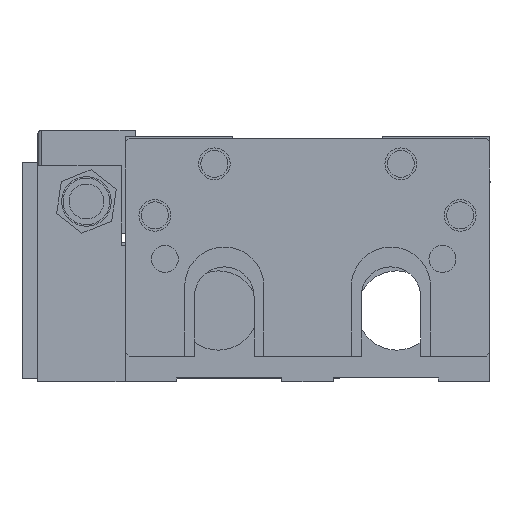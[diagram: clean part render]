
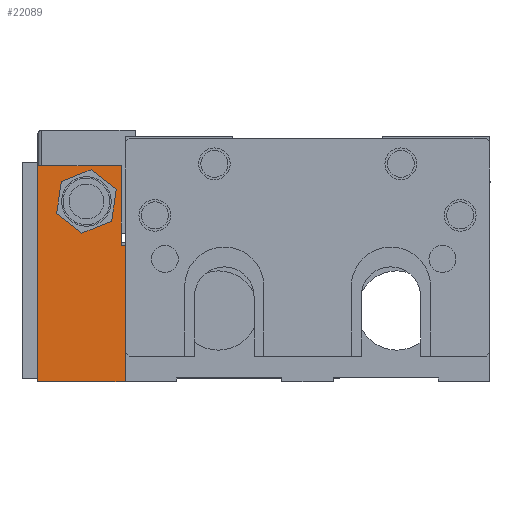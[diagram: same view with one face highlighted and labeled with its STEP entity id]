
A CAD part, left-side view. The second image highlights one B-rep face of the part: STEP entity #22089.
In plain terms, the highlighted planar face has unit normal (-1, 0, 0) as drawn and (0, 0, -1) by its records, which use the part's own axes.
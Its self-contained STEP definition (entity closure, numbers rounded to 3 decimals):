
#172 = DIRECTION ( 'NONE',  ( 1., 0., 0. ) ) ;
#173 = DIRECTION ( 'NONE',  ( 0., 0., 1. ) ) ;
#174 = CARTESIAN_POINT ( 'NONE',  ( 12.25, 45.5, 0. ) ) ;
#175 = AXIS2_PLACEMENT_3D ( 'NONE', #174, #173, #172 ) ;
#176 = CIRCLE ( 'NONE', #175, 6.25 ) ;
#8990 = CARTESIAN_POINT ( 'NONE',  ( 24.5, 0., 0. ) ) ;
#21816 = VERTEX_POINT ( 'NONE', #33091 ) ;
#21884 = VERTEX_POINT ( 'NONE', #33193 ) ;
#21885 = VERTEX_POINT ( 'NONE', #33189 ) ;
#21922 = EDGE_CURVE ( 'NONE', #21923, #21816, #33263, .T. ) ;
#21923 = VERTEX_POINT ( 'NONE', #33270 ) ;
#21927 = VERTEX_POINT ( 'NONE', #33265 ) ;
#21941 = EDGE_CURVE ( 'NONE', #21927, #21960, #33295, .T. ) ;
#21944 = ORIENTED_EDGE ( 'NONE', *, *, #22066, .F. ) ;
#21960 = VERTEX_POINT ( 'NONE', #33311 ) ;
#21965 = EDGE_CURVE ( 'NONE', #21960, #29136, #33315, .T. ) ;
#22054 = EDGE_LOOP ( 'NONE', ( #21944, #22080, #22076, #22077, #22081, #22126 ) ) ;
#22066 = EDGE_CURVE ( 'NONE', #22083, #21927, #33484, .T. ) ;
#22069 = EDGE_CURVE ( 'NONE', #29136, #21923, #33474, .T. ) ;
#22076 = ORIENTED_EDGE ( 'NONE', *, *, #21922, .F. ) ;
#22077 = ORIENTED_EDGE ( 'NONE', *, *, #22069, .F. ) ;
#22080 = ORIENTED_EDGE ( 'NONE', *, *, #22105, .F. ) ;
#22081 = ORIENTED_EDGE ( 'NONE', *, *, #21965, .F. ) ;
#22083 = VERTEX_POINT ( 'NONE', #33562 ) ;
#22085 = EDGE_LOOP ( 'NONE', ( #22131, #22110 ) ) ;
#22089 = ADVANCED_FACE ( 'NONE', ( #33548, #33546 ), #33558, .T. ) ;
#22105 = EDGE_CURVE ( 'NONE', #21816, #22083, #33567, .T. ) ;
#22110 = ORIENTED_EDGE ( 'NONE', *, *, #22355, .T. ) ;
#22123 = EDGE_CURVE ( 'NONE', #21885, #21884, #33618, .T. ) ;
#22126 = ORIENTED_EDGE ( 'NONE', *, *, #21941, .F. ) ;
#22131 = ORIENTED_EDGE ( 'NONE', *, *, #22123, .T. ) ;
#22355 = EDGE_CURVE ( 'NONE', #21884, #21885, #176, .T. ) ;
#29136 = VERTEX_POINT ( 'NONE', #8990 ) ;
#33091 = CARTESIAN_POINT ( 'NONE',  ( 3.5, 54.5, 0. ) ) ;
#33189 = CARTESIAN_POINT ( 'NONE',  ( 18.5, 45.5, 0. ) ) ;
#33193 = CARTESIAN_POINT ( 'NONE',  ( 6., 45.5, 0. ) ) ;
#33259 = DIRECTION ( 'NONE',  ( -1., 0., 0. ) ) ;
#33260 = VECTOR ( 'NONE', #33259, 1000. ) ;
#33262 = CARTESIAN_POINT ( 'NONE',  ( 0., 54.5, 0. ) ) ;
#33263 = LINE ( 'NONE', #33262, #33260 ) ;
#33265 = CARTESIAN_POINT ( 'NONE',  ( 0., 34.5, 0. ) ) ;
#33270 = CARTESIAN_POINT ( 'NONE',  ( 24.5, 54.5, 0. ) ) ;
#33287 = DIRECTION ( 'NONE',  ( 0., -1., 0. ) ) ;
#33288 = VECTOR ( 'NONE', #33287, 1000. ) ;
#33295 = LINE ( 'NONE', #33299, #33288 ) ;
#33299 = CARTESIAN_POINT ( 'NONE',  ( 0., 0., 0. ) ) ;
#33311 = CARTESIAN_POINT ( 'NONE',  ( 0., 0., 0. ) ) ;
#33314 = CARTESIAN_POINT ( 'NONE',  ( 0., 0., 0. ) ) ;
#33315 = LINE ( 'NONE', #33314, #33369 ) ;
#33368 = DIRECTION ( 'NONE',  ( 1., 0., 0. ) ) ;
#33369 = VECTOR ( 'NONE', #33368, 1000. ) ;
#33474 = LINE ( 'NONE', #33515, #33514 ) ;
#33484 = LINE ( 'NONE', #33527, #33526 ) ;
#33513 = DIRECTION ( 'NONE',  ( 0., 1., 0. ) ) ;
#33514 = VECTOR ( 'NONE', #33513, 1000. ) ;
#33515 = CARTESIAN_POINT ( 'NONE',  ( 24.5, 0., 0. ) ) ;
#33525 = DIRECTION ( 'NONE',  ( -1., 0., 0. ) ) ;
#33526 = VECTOR ( 'NONE', #33525, 1000. ) ;
#33527 = CARTESIAN_POINT ( 'NONE',  ( 3.5, 34.5, 0. ) ) ;
#33535 = DIRECTION ( 'NONE',  ( -1., 0., 0. ) ) ;
#33536 = DIRECTION ( 'NONE',  ( 0., 0., -1. ) ) ;
#33537 = CARTESIAN_POINT ( 'NONE',  ( 0., 54.5, 0. ) ) ;
#33546 = FACE_BOUND ( 'NONE', #22085, .T. ) ;
#33548 = FACE_OUTER_BOUND ( 'NONE', #22054, .T. ) ;
#33550 = AXIS2_PLACEMENT_3D ( 'NONE', #33537, #33536, #33535 ) ;
#33558 = PLANE ( 'NONE',  #33550 ) ;
#33562 = CARTESIAN_POINT ( 'NONE',  ( 3.5, 34.5, 0. ) ) ;
#33566 = CARTESIAN_POINT ( 'NONE',  ( 3.5, 54.5, 0. ) ) ;
#33567 = LINE ( 'NONE', #33566, #33627 ) ;
#33608 = DIRECTION ( 'NONE',  ( 1., 0., 0. ) ) ;
#33609 = DIRECTION ( 'NONE',  ( 0., 0., 1. ) ) ;
#33610 = AXIS2_PLACEMENT_3D ( 'NONE', #33616, #33609, #33608 ) ;
#33616 = CARTESIAN_POINT ( 'NONE',  ( 12.25, 45.5, 0. ) ) ;
#33618 = CIRCLE ( 'NONE', #33610, 6.25 ) ;
#33626 = DIRECTION ( 'NONE',  ( 0., -1., 0. ) ) ;
#33627 = VECTOR ( 'NONE', #33626, 1000. ) ;
